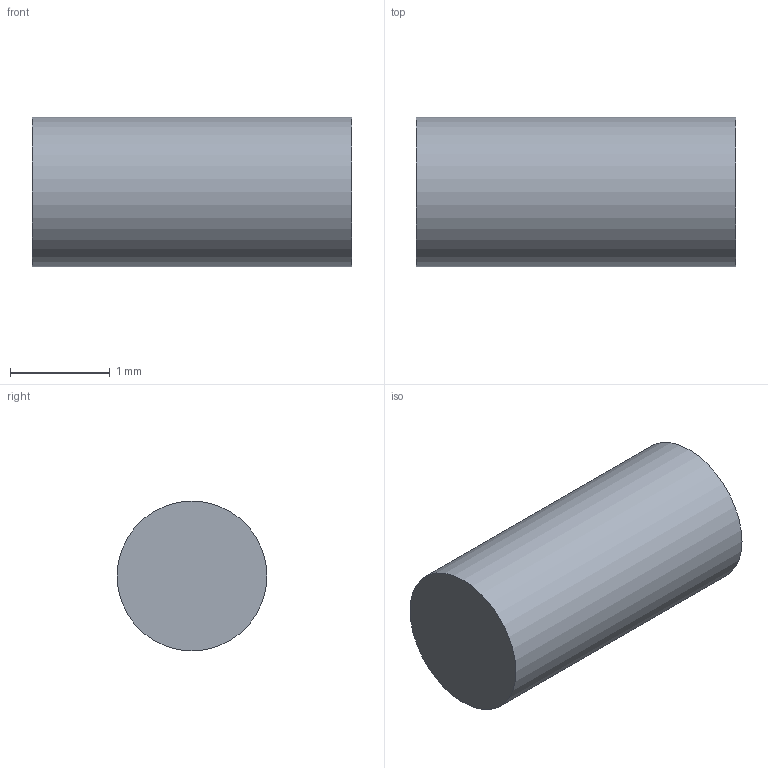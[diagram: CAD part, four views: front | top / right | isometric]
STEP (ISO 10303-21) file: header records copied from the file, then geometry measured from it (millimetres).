
FILE_DESCRIPTION(('Open CASCADE Model'),'2;1');
FILE_NAME('Open CASCADE Shape Model','2026-09-15T14:06:45',('Author'),( 'Open CASCADE'),'Open CASCADE STEP processor 7.7','Open CASCADE 7.7' ,'Unknown');
FILE_SCHEMA(('AUTOMOTIVE_DESIGN { 1 0 10303 214 1 1 1 1 }'));
Length unit declared in the file: millimetre
Products named in the file (1): J9_JOINT_VOLDOWN_COMMON_D1p5_ALLOWANCE
Bounding box: 3.2 x 1.5 x 1.5 mm (x, y, z)
Volume: 5.7 mm3; surface area: 18.6 mm2
Topology: 1 solids, 1 shells, 3 faces, 3 edges, 2 vertices
Faces by surface type: plane 2, cylinder 1
Full cylindrical faces by diameter (mm): 1.5 x1
Entity records: 108 total; most frequent: DIRECTION 19, CARTESIAN_POINT 15, AXIS2_PLACEMENT_3D 6, ORIENTED_EDGE 6, PCURVE 6, DEFINITIONAL_REPRESENTATION 6, LINE 5, VECTOR 5
